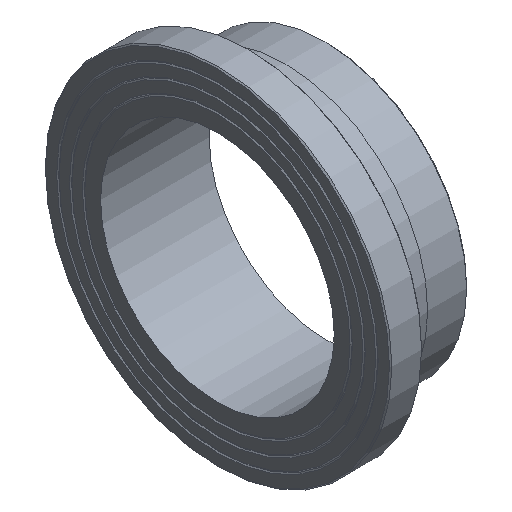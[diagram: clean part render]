
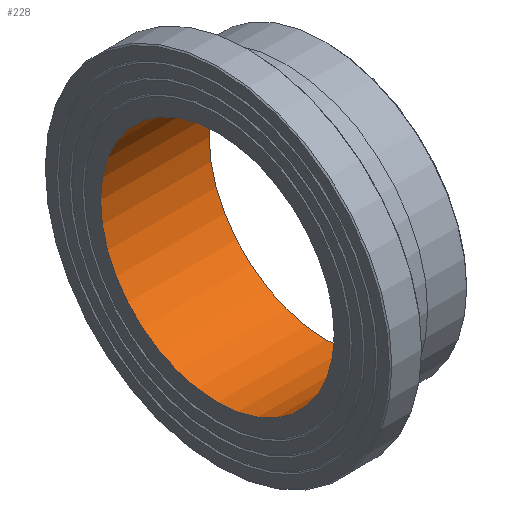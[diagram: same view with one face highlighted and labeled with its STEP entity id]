
A CAD part, isometric view. The second image highlights one B-rep face of the part: STEP entity #228.
In plain terms, the highlighted cylindrical face has radius 145.3 mm (diameter 290.6 mm), a full revolution.
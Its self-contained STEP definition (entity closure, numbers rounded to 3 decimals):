
#33=CYLINDRICAL_SURFACE('',#274,145.3);
#50=ORIENTED_EDGE('',*,*,#79,.F.);
#51=ORIENTED_EDGE('',*,*,#76,.T.);
#76=EDGE_CURVE('',#96,#96,#116,.T.);
#79=EDGE_CURVE('',#99,#99,#119,.T.);
#96=VERTEX_POINT('',#383);
#99=VERTEX_POINT('',#390);
#116=CIRCLE('',#257,145.3);
#119=CIRCLE('',#261,145.3);
#150=EDGE_LOOP('',(#50));
#151=EDGE_LOOP('',(#51));
#190=FACE_BOUND('',#150,.T.);
#191=FACE_BOUND('',#151,.T.);
#228=ADVANCED_FACE('',(#190,#191),#33,.F.);
#257=AXIS2_PLACEMENT_3D('',#382,#303,#304);
#261=AXIS2_PLACEMENT_3D('',#389,#311,#312);
#274=AXIS2_PLACEMENT_3D('',#410,#337,#338);
#303=DIRECTION('',(-1.,0.,0.));
#304=DIRECTION('',(0.,0.,1.));
#311=DIRECTION('',(-1.,0.,0.));
#312=DIRECTION('',(0.,0.,1.));
#337=DIRECTION('',(-1.,0.,0.));
#338=DIRECTION('',(0.,0.,1.));
#382=CARTESIAN_POINT('',(0.,0.,0.));
#383=CARTESIAN_POINT('',(0.,0.,145.3));
#389=CARTESIAN_POINT('',(135.,0.,0.));
#390=CARTESIAN_POINT('',(135.,0.,145.3));
#410=CARTESIAN_POINT('',(60.,0.,0.));
